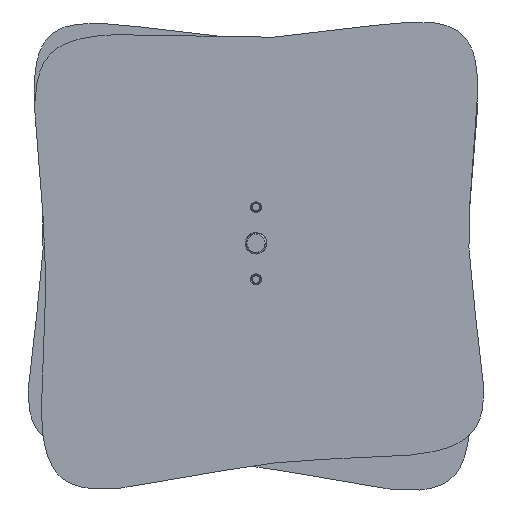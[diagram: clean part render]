
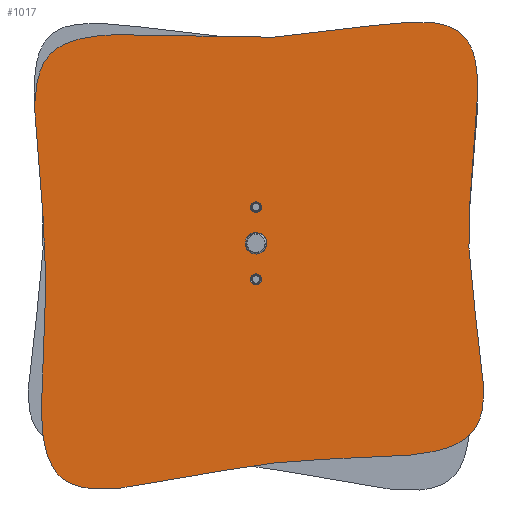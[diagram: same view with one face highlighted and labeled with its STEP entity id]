
A CAD part, front view. The second image highlights one B-rep face of the part: STEP entity #1017.
In plain terms, the highlighted planar face has unit normal (0, -1, 0).
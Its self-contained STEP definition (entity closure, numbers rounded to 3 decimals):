
#368 = CARTESIAN_POINT ( 'NONE',  ( 0., -8.75, -6.025 ) ) ;
#608 = CIRCLE ( 'NONE', #17563, 3.025 ) ;
#681 = EDGE_CURVE ( 'NONE', #26191, #15675, #608, .T. ) ;
#766 = EDGE_CURVE ( 'NONE', #15761, #8294, #11448, .T. ) ;
#1017 = ADVANCED_FACE ( 'NONE', ( #24147, #16232, #15682, #9668 ), #24008, .T. ) ;
#1174 = EDGE_LOOP ( 'NONE', ( #17398, #26360 ) ) ;
#1296 = EDGE_LOOP ( 'NONE', ( #11807, #7325 ) ) ;
#1498 = CARTESIAN_POINT ( 'NONE',  ( -145.738, -8.75, 136.82 ) ) ;
#1519 = CARTESIAN_POINT ( 'NONE',  ( 53.621, -8.75, 116.875 ) ) ;
#1642 = ORIENTED_EDGE ( 'NONE', *, *, #11833, .T. ) ;
#1788 = CARTESIAN_POINT ( 'NONE',  ( 9.787, -8.75, 114.383 ) ) ;
#2201 = VERTEX_POINT ( 'NONE', #19635 ) ;
#2343 = CIRCLE ( 'NONE', #17127, 6.025 ) ;
#2576 = CARTESIAN_POINT ( 'NONE',  ( 0., -8.75, 16.975 ) ) ;
#2929 = VERTEX_POINT ( 'NONE', #19524 ) ;
#3191 = CIRCLE ( 'NONE', #7085, 3.025 ) ;
#3370 = EDGE_CURVE ( 'NONE', #2929, #23166, #17009, .T. ) ;
#3498 = EDGE_CURVE ( 'NONE', #8294, #15761, #2343, .T. ) ;
#3831 = CARTESIAN_POINT ( 'NONE',  ( 147.648, -8.75, 146.803 ) ) ;
#3935 = CARTESIAN_POINT ( 'NONE',  ( 0., -8.75, -23.025 ) ) ;
#4014 = ORIENTED_EDGE ( 'NONE', *, *, #17796, .T. ) ;
#4211 = AXIS2_PLACEMENT_3D ( 'NONE', #17353, #5099, #18136 ) ;
#4617 = CIRCLE ( 'NONE', #4211, 3.025 ) ;
#4633 = DIRECTION ( 'NONE',  ( 0., 0., 1. ) ) ;
#5099 = DIRECTION ( 'NONE',  ( 0., 1., 0. ) ) ;
#6451 = EDGE_CURVE ( 'NONE', #23166, #2929, #21596, .T. ) ;
#7044 = CARTESIAN_POINT ( 'NONE',  ( 0., -8.75, 6.025 ) ) ;
#7085 = AXIS2_PLACEMENT_3D ( 'NONE', #22483, #16364, #8290 ) ;
#7295 = DIRECTION ( 'NONE',  ( 0., 0., 1. ) ) ;
#7325 = ORIENTED_EDGE ( 'NONE', *, *, #766, .T. ) ;
#7464 = ORIENTED_EDGE ( 'NONE', *, *, #24503, .T. ) ;
#7824 = DIRECTION ( 'NONE',  ( 0., 0., 1. ) ) ;
#7887 = CARTESIAN_POINT ( 'NONE',  ( 149.592, -8.75, -129.444 ) ) ;
#8024 = CARTESIAN_POINT ( 'NONE',  ( 49.236, -8.75, -115.356 ) ) ;
#8290 = DIRECTION ( 'NONE',  ( 0., 0., 1. ) ) ;
#8294 = VERTEX_POINT ( 'NONE', #368 ) ;
#9585 = AXIS2_PLACEMENT_3D ( 'NONE', #12053, #26538, #7824 ) ;
#9668 = FACE_OUTER_BOUND ( 'NONE', #1174, .T. ) ;
#10073 = CARTESIAN_POINT ( 'NONE',  ( -7.242, -8.75, -124.244 ) ) ;
#11448 = CIRCLE ( 'NONE', #24991, 6.025 ) ;
#11807 = ORIENTED_EDGE ( 'NONE', *, *, #3498, .T. ) ;
#11833 = EDGE_CURVE ( 'NONE', #15675, #26191, #4617, .T. ) ;
#11996 = CARTESIAN_POINT ( 'NONE',  ( -16.41, -8.75, -125.88 ) ) ;
#12053 = CARTESIAN_POINT ( 'NONE',  ( 0., -8.75, -20. ) ) ;
#12261 = EDGE_LOOP ( 'NONE', ( #1642, #21437 ) ) ;
#13748 = CARTESIAN_POINT ( 'NONE',  ( -137.189, -8.75, -156.063 ) ) ;
#13876 = CARTESIAN_POINT ( 'NONE',  ( -56.798, -8.75, -133.09 ) ) ;
#13895 = CARTESIAN_POINT ( 'NONE',  ( 102.601, -8.75, 2.184 ) ) ;
#15352 = CARTESIAN_POINT ( 'NONE',  ( 0., -8.75, 0. ) ) ;
#15675 = VERTEX_POINT ( 'NONE', #2576 ) ;
#15682 = FACE_BOUND ( 'NONE', #1296, .T. ) ;
#15761 = VERTEX_POINT ( 'NONE', #7044 ) ;
#16232 = FACE_BOUND ( 'NONE', #24115, .T. ) ;
#16364 = DIRECTION ( 'NONE',  ( 0., 1., 0. ) ) ;
#16632 = DIRECTION ( 'NONE',  ( 0., 0., 1. ) ) ;
#17009 = B_SPLINE_CURVE_WITH_KNOTS ( 'NONE', 3,
 ( #1788, #1519, #3831, #13895, #7887, #8024, #10073, #22209 ),
 .UNSPECIFIED., .F., .F.,
 ( 4, 1, 1, 1, 1, 4 ),
 ( 0., 0.113, 0.247, 0.354, 0.476, 0.5 ),
 .UNSPECIFIED. ) ;
#17127 = AXIS2_PLACEMENT_3D ( 'NONE', #20852, #22621, #16632 ) ;
#17302 = VERTEX_POINT ( 'NONE', #3935 ) ;
#17353 = CARTESIAN_POINT ( 'NONE',  ( 0., -8.75, 20. ) ) ;
#17398 = ORIENTED_EDGE ( 'NONE', *, *, #3370, .F. ) ;
#17563 = AXIS2_PLACEMENT_3D ( 'NONE', #23295, #21651, #4633 ) ;
#17796 = EDGE_CURVE ( 'NONE', #17302, #2201, #17859, .T. ) ;
#17859 = CIRCLE ( 'NONE', #9585, 3.025 ) ;
#18136 = DIRECTION ( 'NONE',  ( 0., 0., 1. ) ) ;
#18638 = CARTESIAN_POINT ( 'NONE',  ( -16.41, -8.75, -125.88 ) ) ;
#19524 = CARTESIAN_POINT ( 'NONE',  ( 9.787, -8.75, 114.383 ) ) ;
#19635 = CARTESIAN_POINT ( 'NONE',  ( 0., -8.75, -16.975 ) ) ;
#20148 = CARTESIAN_POINT ( 'NONE',  ( -16.41, -8.75, -125.88 ) ) ;
#20852 = CARTESIAN_POINT ( 'NONE',  ( 0., -8.75, 0. ) ) ;
#21437 = ORIENTED_EDGE ( 'NONE', *, *, #681, .T. ) ;
#21596 = B_SPLINE_CURVE_WITH_KNOTS ( 'NONE', 3,
 ( #20148, #13876, #13748, #26166, #1498, #22192, #24397 ),
 .UNSPECIFIED., .F., .F.,
 ( 4, 1, 1, 1, 4 ),
 ( 0.5, 0.607, 0.739, 0.863, 1. ),
 .UNSPECIFIED. ) ;
#21651 = DIRECTION ( 'NONE',  ( 0., 1., 0. ) ) ;
#22192 = CARTESIAN_POINT ( 'NONE',  ( -43.088, -8.75, 111.377 ) ) ;
#22209 = CARTESIAN_POINT ( 'NONE',  ( -16.41, -8.75, -125.88 ) ) ;
#22483 = CARTESIAN_POINT ( 'NONE',  ( 0., -8.75, -20. ) ) ;
#22496 = DIRECTION ( 'NONE',  ( 0., 0., -1. ) ) ;
#22621 = DIRECTION ( 'NONE',  ( 0., 1., 0. ) ) ;
#23166 = VERTEX_POINT ( 'NONE', #18638 ) ;
#23295 = CARTESIAN_POINT ( 'NONE',  ( 0., -8.75, 20. ) ) ;
#24008 = PLANE ( 'NONE',  #24610 ) ;
#24115 = EDGE_LOOP ( 'NONE', ( #4014, #7464 ) ) ;
#24147 = FACE_BOUND ( 'NONE', #12261, .T. ) ;
#24397 = CARTESIAN_POINT ( 'NONE',  ( 9.787, -8.75, 114.383 ) ) ;
#24503 = EDGE_CURVE ( 'NONE', #2201, #17302, #3191, .T. ) ;
#24610 = AXIS2_PLACEMENT_3D ( 'NONE', #11996, #26475, #22496 ) ;
#24991 = AXIS2_PLACEMENT_3D ( 'NONE', #15352, #25997, #7295 ) ;
#25530 = CARTESIAN_POINT ( 'NONE',  ( 0., -8.75, 23.025 ) ) ;
#25997 = DIRECTION ( 'NONE',  ( 0., 1., 0. ) ) ;
#26166 = CARTESIAN_POINT ( 'NONE',  ( -103.945, -8.75, -10.991 ) ) ;
#26191 = VERTEX_POINT ( 'NONE', #25530 ) ;
#26360 = ORIENTED_EDGE ( 'NONE', *, *, #6451, .F. ) ;
#26475 = DIRECTION ( 'NONE',  ( 0., -1., 0. ) ) ;
#26538 = DIRECTION ( 'NONE',  ( 0., 1., 0. ) ) ;
